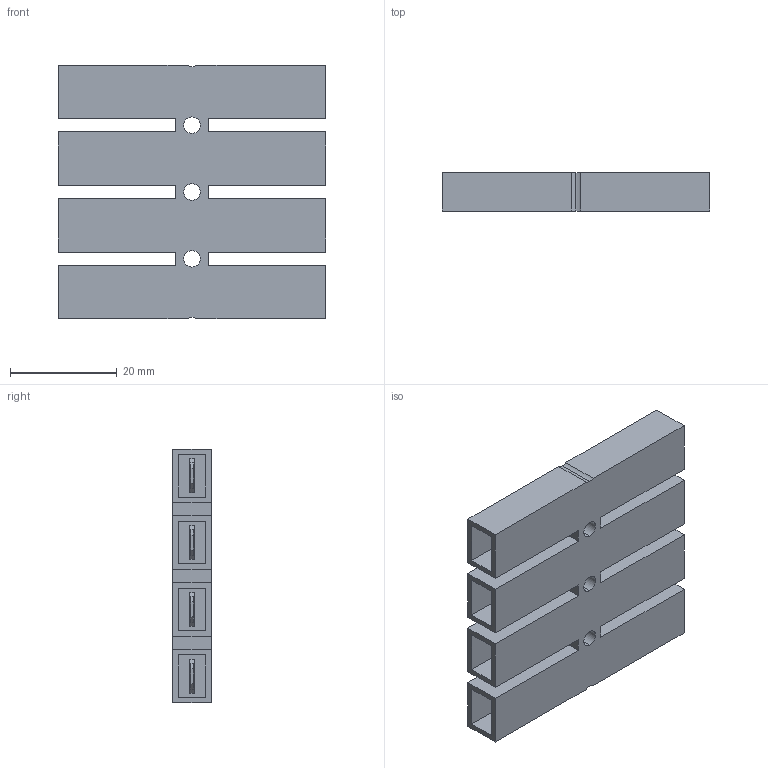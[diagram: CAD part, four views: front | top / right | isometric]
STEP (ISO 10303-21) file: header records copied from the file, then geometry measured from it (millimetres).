
FILE_DESCRIPTION (( 'STEP AP203' ), '1' );
FILE_NAME ('408-50-4.8-04.STEP', '2019-01-27T22:37:42', ( '' ), ( '' ), 'SwSTEP 2.0', 'SolidWorks 2016', '' );
FILE_SCHEMA (( 'CONFIG_CONTROL_DESIGN' ));
Length unit declared in the file: millimetre
Products named in the file (1): 408-50-4.8-04
Bounding box: 50 x 7.2 x 47.5 mm (x, y, z)
Volume: 7631 mm3; surface area: 12796.3 mm2
Topology: 1 solids, 1 shells, 214 faces, 556 edges, 360 vertices
Faces by surface type: plane 184, cylinder 30
Entity records: 6549 total; most frequent: CARTESIAN_POINT 1143, ORIENTED_EDGE 1112, DIRECTION 1042, EDGE_CURVE 556, LINE 492, VECTOR 492, VERTEX_POINT 360, AXIS2_PLACEMENT_3D 275
